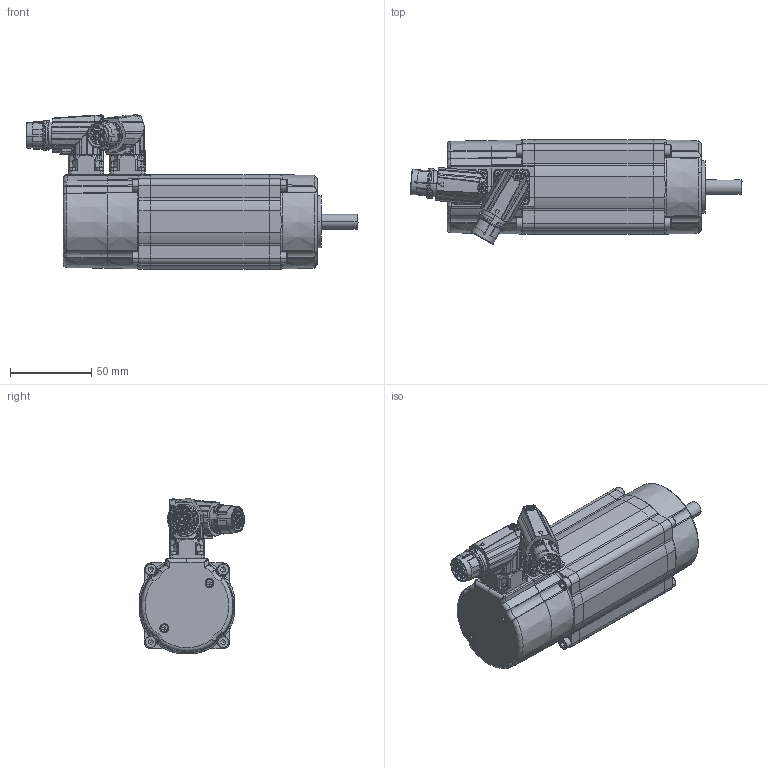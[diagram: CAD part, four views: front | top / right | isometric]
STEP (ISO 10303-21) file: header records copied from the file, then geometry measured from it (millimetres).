
FILE_DESCRIPTION(('CATIA V5 STEP Exchange'),'2;1');
FILE_NAME('C:\Documents and Settings\max\Documenti\sangallimotori\3d step\tg1\motore_DSM5_13.stp','2010-12-11T00:53:49+00:00',('none'),('none'),'CATIA Version 5 Release 10 (IN-8)','CATIA V5 STEP AP203',' none');
FILE_SCHEMA(('CONFIG_CONTROL_DESIGN'));
Assembly tree (33 placements, depth 0):
Bounding box: 203.77 x 64.2 x 94.55 mm (x, y, z)
Volume: 462530.6 mm3; surface area: 77576.5 mm2
Topology: 30 solids, 31 shells, 3906 faces, 12322 edges, 8545 vertices
Faces by surface type: cylinder 1455, plane 842, bspline 822, cone 358, torus 325, sphere 98, extrusion 6
Entity records: 180669 total; most frequent: CARTESIAN_POINT 97999, ORIENTED_EDGE 22138, EDGE_CURVE 11082, DIRECTION 9955, VERTEX_POINT 7795, B_SPLINE_CURVE_WITH_KNOTS 5236, AXIS2_PLACEMENT_3D 4834, EDGE_LOOP 3530
